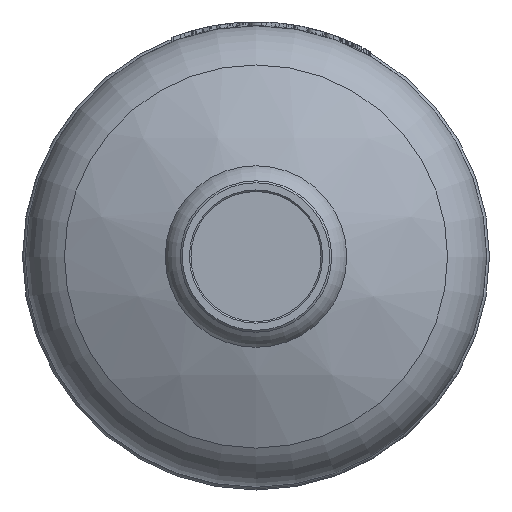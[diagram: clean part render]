
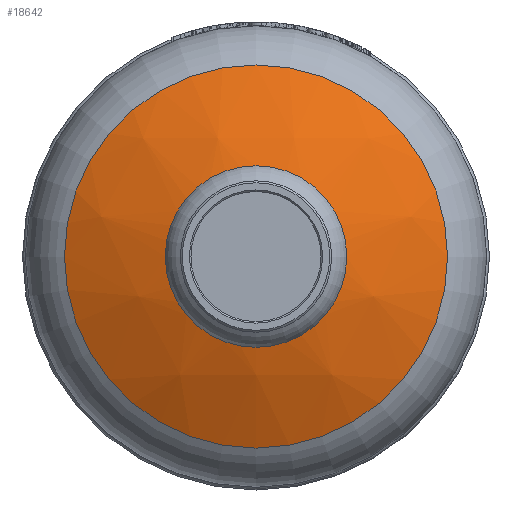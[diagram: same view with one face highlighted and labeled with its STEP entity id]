
A CAD part, front view. The second image highlights one B-rep face of the part: STEP entity #18642.
In plain terms, the highlighted spherical face has radius 105 mm.
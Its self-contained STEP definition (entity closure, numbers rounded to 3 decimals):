
#19=SPHERICAL_SURFACE('',#19999,105.);
#4905=FACE_BOUND('',#7045,.T.);
#5929=FACE_OUTER_BOUND('',#7044,.T.);
#7044=EDGE_LOOP('',(#17603));
#7045=EDGE_LOOP('',(#17604));
#7067=CIRCLE('',#18659,24.);
#7396=CIRCLE('',#19998,50.647);
#7407=VERTEX_POINT('',#24088);
#9260=VERTEX_POINT('',#40017);
#9271=EDGE_CURVE('',#7407,#7407,#7067,.T.);
#12045=EDGE_CURVE('',#9260,#9260,#7396,.T.);
#17603=ORIENTED_EDGE('',*,*,#12045,.T.);
#17604=ORIENTED_EDGE('',*,*,#9271,.T.);
#18642=ADVANCED_FACE('',(#5929,#4905),#19,.T.);
#18659=AXIS2_PLACEMENT_3D('',#24089,#20030,#20031);
#19998=AXIS2_PLACEMENT_3D('',#40018,#24039,#24040);
#19999=AXIS2_PLACEMENT_3D('',#40019,#24041,#24042);
#20030=DIRECTION('center_axis',(0.,1.,0.));
#20031=DIRECTION('ref_axis',(0.,0.,1.));
#24039=DIRECTION('center_axis',(0.,-1.,0.));
#24040=DIRECTION('ref_axis',(1.,0.,0.));
#24041=DIRECTION('center_axis',(0.,0.,1.));
#24042=DIRECTION('ref_axis',(-1.,0.,0.));
#24088=CARTESIAN_POINT('',(0.,-179.22,24.));
#24089=CARTESIAN_POINT('Origin',(0.,-179.22,0.));
#40017=CARTESIAN_POINT('',(50.647,-168.978,0.));
#40018=CARTESIAN_POINT('Origin',(0.,-168.978,
0.));
#40019=CARTESIAN_POINT('Origin',(0.,-77.,0.));
